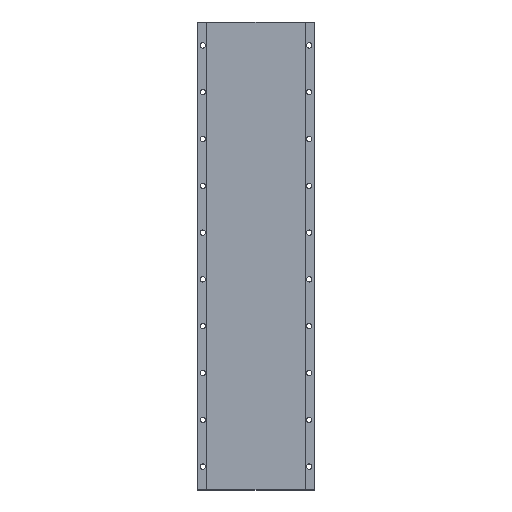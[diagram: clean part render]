
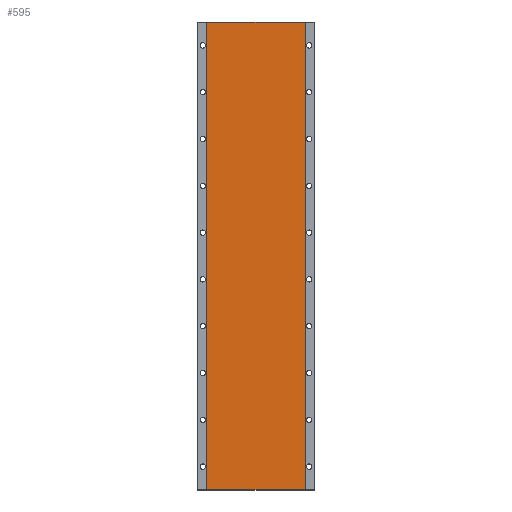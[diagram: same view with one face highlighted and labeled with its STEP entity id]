
A CAD part, top view. The second image highlights one B-rep face of the part: STEP entity #595.
In plain terms, the highlighted planar face has unit normal (0, 0, 1).
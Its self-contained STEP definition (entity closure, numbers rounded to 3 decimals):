
#86 = CARTESIAN_POINT ( 'NONE',  ( 67.177, 400., 5.35 ) ) ;
#139 = CARTESIAN_POINT ( 'NONE',  ( -16.673, 400., 5.35 ) ) ;
#173 = VECTOR ( 'NONE', #1166, 1000. ) ;
#209 = DIRECTION ( 'NONE',  ( 0., -1., 0. ) ) ;
#328 = DIRECTION ( 'NONE',  ( 1., 0., 0. ) ) ;
#337 = VERTEX_POINT ( 'NONE', #1392 ) ;
#353 = LINE ( 'NONE', #139, #173 ) ;
#548 = VECTOR ( 'NONE', #1454, 1000. ) ;
#595 = ADVANCED_FACE ( 'NONE', ( #832 ), #1720, .T. ) ;
#633 = EDGE_CURVE ( 'NONE', #800, #337, #1756, .T. ) ;
#663 = ORIENTED_EDGE ( 'NONE', *, *, #1344, .T. ) ;
#800 = VERTEX_POINT ( 'NONE', #924 ) ;
#832 = FACE_OUTER_BOUND ( 'NONE', #1456, .T. ) ;
#871 = LINE ( 'NONE', #1599, #1194 ) ;
#924 = CARTESIAN_POINT ( 'NONE',  ( -17.123, 400., 5.35 ) ) ;
#956 = LINE ( 'NONE', #1037, #548 ) ;
#969 = VERTEX_POINT ( 'NONE', #86 ) ;
#1016 = DIRECTION ( 'NONE',  ( 0., -1., 0. ) ) ;
#1037 = CARTESIAN_POINT ( 'NONE',  ( -16.673, 0., 5.35 ) ) ;
#1166 = DIRECTION ( 'NONE',  ( -1., 0., 0. ) ) ;
#1172 = CARTESIAN_POINT ( 'NONE',  ( -17.123, 400., 5.35 ) ) ;
#1194 = VECTOR ( 'NONE', #209, 1000. ) ;
#1227 = ORIENTED_EDGE ( 'NONE', *, *, #1358, .F. ) ;
#1230 = EDGE_CURVE ( 'NONE', #969, #800, #353, .T. ) ;
#1270 = AXIS2_PLACEMENT_3D ( 'NONE', #1731, #1432, #328 ) ;
#1328 = VECTOR ( 'NONE', #1016, 1000. ) ;
#1344 = EDGE_CURVE ( 'NONE', #337, #1407, #956, .T. ) ;
#1358 = EDGE_CURVE ( 'NONE', #969, #1407, #871, .T. ) ;
#1392 = CARTESIAN_POINT ( 'NONE',  ( -17.123, 0., 5.35 ) ) ;
#1407 = VERTEX_POINT ( 'NONE', #1447 ) ;
#1432 = DIRECTION ( 'NONE',  ( 0., 0., 1. ) ) ;
#1447 = CARTESIAN_POINT ( 'NONE',  ( 67.177, 0., 5.35 ) ) ;
#1454 = DIRECTION ( 'NONE',  ( 1., 0., 0. ) ) ;
#1456 = EDGE_LOOP ( 'NONE', ( #1766, #1553, #663, #1227 ) ) ;
#1553 = ORIENTED_EDGE ( 'NONE', *, *, #633, .T. ) ;
#1599 = CARTESIAN_POINT ( 'NONE',  ( 67.177, 400., 5.35 ) ) ;
#1720 = PLANE ( 'NONE',  #1270 ) ;
#1731 = CARTESIAN_POINT ( 'NONE',  ( 0., 0., 5.35 ) ) ;
#1756 = LINE ( 'NONE', #1172, #1328 ) ;
#1766 = ORIENTED_EDGE ( 'NONE', *, *, #1230, .T. ) ;
